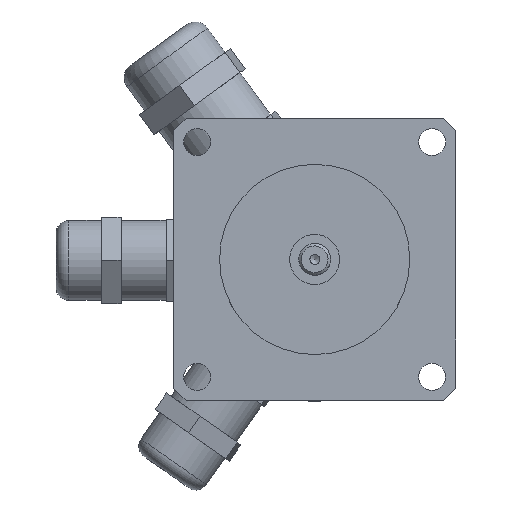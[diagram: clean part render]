
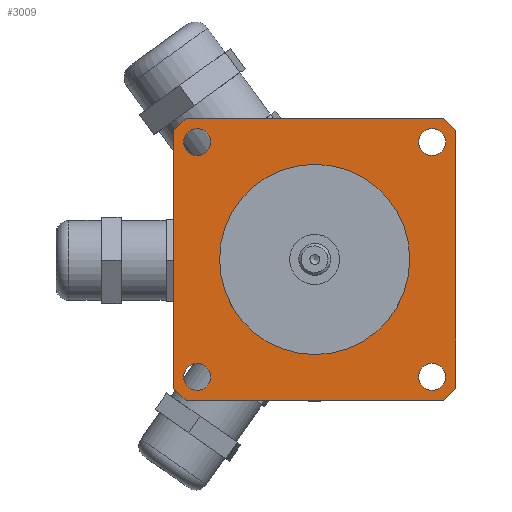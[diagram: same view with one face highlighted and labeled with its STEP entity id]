
A CAD part, top view. The second image highlights one B-rep face of the part: STEP entity #3009.
In plain terms, the highlighted planar face has unit normal (0, 0, 1).
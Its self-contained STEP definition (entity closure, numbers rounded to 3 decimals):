
#2613=CARTESIAN_POINT('',(19.05,0.,42.7));
#2614=VERTEX_POINT('',#2613);
#2615=CARTESIAN_POINT('',(0.,0.,42.7));
#2616=DIRECTION('',(0.0,0.0,-1.0));
#2617=DIRECTION('',(-1.0,0.0,0.0));
#2618=AXIS2_PLACEMENT_3D('',#2615,#2616,#2617);
#2619=CIRCLE('',#2618,19.05);
#2620=EDGE_CURVE('',#2614,#2614,#2619,.T.);
#2663=CARTESIAN_POINT('',(26.211,23.511,42.7));
#2664=VERTEX_POINT('',#2663);
#2665=CARTESIAN_POINT('',(23.511,23.511,42.7));
#2666=DIRECTION('',(0.0,0.0,-1.0));
#2667=DIRECTION('',(-1.0,0.0,0.0));
#2668=AXIS2_PLACEMENT_3D('',#2665,#2666,#2667);
#2669=CIRCLE('',#2668,2.7);
#2670=EDGE_CURVE('',#2664,#2664,#2669,.T.);
#2683=CARTESIAN_POINT('',(26.211,-23.511,42.7));
#2684=VERTEX_POINT('',#2683);
#2685=CARTESIAN_POINT('',(23.511,-23.511,42.7));
#2686=DIRECTION('',(0.0,0.0,-1.0));
#2687=DIRECTION('',(-1.0,0.0,0.0));
#2688=AXIS2_PLACEMENT_3D('',#2685,#2686,#2687);
#2689=CIRCLE('',#2688,2.7);
#2690=EDGE_CURVE('',#2684,#2684,#2689,.T.);
#2703=CARTESIAN_POINT('',(-20.811,23.511,42.7));
#2704=VERTEX_POINT('',#2703);
#2705=CARTESIAN_POINT('',(-23.511,23.511,42.7));
#2706=DIRECTION('',(0.0,0.0,-1.0));
#2707=DIRECTION('',(-1.0,0.0,0.0));
#2708=AXIS2_PLACEMENT_3D('',#2705,#2706,#2707);
#2709=CIRCLE('',#2708,2.7);
#2710=EDGE_CURVE('',#2704,#2704,#2709,.T.);
#2723=CARTESIAN_POINT('',(-20.811,-23.511,42.7));
#2724=VERTEX_POINT('',#2723);
#2725=CARTESIAN_POINT('',(-23.511,-23.511,42.7));
#2726=DIRECTION('',(0.0,0.0,-1.0));
#2727=DIRECTION('',(-1.0,0.0,0.0));
#2728=AXIS2_PLACEMENT_3D('',#2725,#2726,#2727);
#2729=CIRCLE('',#2728,2.7);
#2730=EDGE_CURVE('',#2724,#2724,#2729,.T.);
#2743=CARTESIAN_POINT('',(25.75,28.25,42.7));
#2744=VERTEX_POINT('',#2743);
#2745=CARTESIAN_POINT('',(28.25,25.75,42.7));
#2746=VERTEX_POINT('',#2745);
#2747=CARTESIAN_POINT('',(25.75,28.25,42.7));
#2748=DIRECTION('',(0.707,-0.707,0.0));
#2749=VECTOR('',#2748,3.536);
#2750=LINE('',#2747,#2749);
#2751=EDGE_CURVE('',#2744,#2746,#2750,.T.);
#2774=CARTESIAN_POINT('',(28.25,-25.75,42.7));
#2775=VERTEX_POINT('',#2774);
#2776=CARTESIAN_POINT('',(28.25,25.75,42.7));
#2777=DIRECTION('',(0.0,-1.0,0.0));
#2778=VECTOR('',#2777,51.5);
#2779=LINE('',#2776,#2778);
#2780=EDGE_CURVE('',#2746,#2775,#2779,.T.);
#2814=CARTESIAN_POINT('',(25.75,-28.25,42.7));
#2815=VERTEX_POINT('',#2814);
#2816=CARTESIAN_POINT('',(28.25,-25.75,42.7));
#2817=DIRECTION('',(-0.707,-0.707,0.0));
#2818=VECTOR('',#2817,3.536);
#2819=LINE('',#2816,#2818);
#2820=EDGE_CURVE('',#2775,#2815,#2819,.T.);
#2838=CARTESIAN_POINT('',(-25.75,-28.25,42.7));
#2839=VERTEX_POINT('',#2838);
#2840=CARTESIAN_POINT('',(25.75,-28.25,42.7));
#2841=DIRECTION('',(-1.0,0.0,0.0));
#2842=VECTOR('',#2841,51.5);
#2843=LINE('',#2840,#2842);
#2844=EDGE_CURVE('',#2815,#2839,#2843,.T.);
#2869=CARTESIAN_POINT('',(-28.25,-25.75,42.7));
#2870=VERTEX_POINT('',#2869);
#2871=CARTESIAN_POINT('',(-25.75,-28.25,42.7));
#2872=DIRECTION('',(-0.707,0.707,0.0));
#2873=VECTOR('',#2872,3.536);
#2874=LINE('',#2871,#2873);
#2875=EDGE_CURVE('',#2839,#2870,#2874,.T.);
#2893=CARTESIAN_POINT('',(-28.25,25.75,42.7));
#2894=VERTEX_POINT('',#2893);
#2895=CARTESIAN_POINT('',(-28.25,-25.75,42.7));
#2896=DIRECTION('',(0.0,1.0,0.0));
#2897=VECTOR('',#2896,51.5);
#2898=LINE('',#2895,#2897);
#2899=EDGE_CURVE('',#2870,#2894,#2898,.T.);
#2924=CARTESIAN_POINT('',(-25.75,28.25,42.7));
#2925=VERTEX_POINT('',#2924);
#2926=CARTESIAN_POINT('',(-28.25,25.75,42.7));
#2927=DIRECTION('',(0.707,0.707,0.0));
#2928=VECTOR('',#2927,3.536);
#2929=LINE('',#2926,#2928);
#2930=EDGE_CURVE('',#2894,#2925,#2929,.T.);
#2948=CARTESIAN_POINT('',(-25.75,28.25,42.7));
#2949=DIRECTION('',(1.0,0.0,0.0));
#2950=VECTOR('',#2949,51.5);
#2951=LINE('',#2948,#2950);
#2952=EDGE_CURVE('',#2925,#2744,#2951,.T.);
#2979=CARTESIAN_POINT('',(0.,0.,42.7));
#2980=DIRECTION('',(0.0,0.0,1.0));
#2981=DIRECTION('',(1.0,0.0,0.0));
#2982=AXIS2_PLACEMENT_3D('',#2979,#2980,#2981);
#2983=PLANE('',#2982);
#2984=ORIENTED_EDGE('',*,*,#2751,.F.);
#2985=ORIENTED_EDGE('',*,*,#2952,.F.);
#2986=ORIENTED_EDGE('',*,*,#2930,.F.);
#2987=ORIENTED_EDGE('',*,*,#2899,.F.);
#2988=ORIENTED_EDGE('',*,*,#2875,.F.);
#2989=ORIENTED_EDGE('',*,*,#2844,.F.);
#2990=ORIENTED_EDGE('',*,*,#2820,.F.);
#2991=ORIENTED_EDGE('',*,*,#2780,.F.);
#2992=EDGE_LOOP('',(#2984,#2985,#2986,#2987,#2988,#2989,#2990,#2991));
#2993=FACE_OUTER_BOUND('',#2992,.T.);
#2994=ORIENTED_EDGE('',*,*,#2620,.T.);
#2995=EDGE_LOOP('',(#2994));
#2996=FACE_BOUND('',#2995,.T.);
#2997=ORIENTED_EDGE('',*,*,#2670,.T.);
#2998=EDGE_LOOP('',(#2997));
#2999=FACE_BOUND('',#2998,.T.);
#3000=ORIENTED_EDGE('',*,*,#2690,.T.);
#3001=EDGE_LOOP('',(#3000));
#3002=FACE_BOUND('',#3001,.T.);
#3003=ORIENTED_EDGE('',*,*,#2710,.T.);
#3004=EDGE_LOOP('',(#3003));
#3005=FACE_BOUND('',#3004,.T.);
#3006=ORIENTED_EDGE('',*,*,#2730,.T.);
#3007=EDGE_LOOP('',(#3006));
#3008=FACE_BOUND('',#3007,.T.);
#3009=ADVANCED_FACE('',(#2993,#2996,#2999,#3002,#3005,#3008),#2983,.T.);
